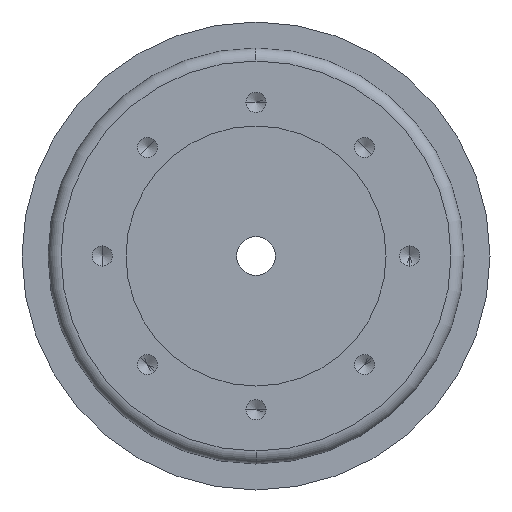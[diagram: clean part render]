
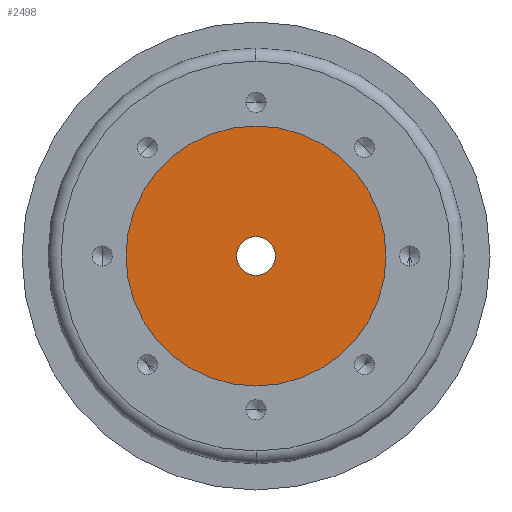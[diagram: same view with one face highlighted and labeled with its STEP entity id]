
A CAD part, left-side view. The second image highlights one B-rep face of the part: STEP entity #2498.
In plain terms, the highlighted planar face has unit normal (-1, 0, 0).
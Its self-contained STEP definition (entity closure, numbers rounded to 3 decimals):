
#15 = EDGE_CURVE ( 'NONE', #2365, #2372, #2348, .T. ) ;
#651 = CARTESIAN_POINT ( 'NONE',  ( 20., 0., -8.25 ) ) ;
#780 = CARTESIAN_POINT ( 'NONE',  ( 20., 0., 8.25 ) ) ;
#781 = DIRECTION ( 'NONE',  ( 0., 0., 1. ) ) ;
#782 = DIRECTION ( 'NONE',  ( -1., 0., 0. ) ) ;
#783 = CARTESIAN_POINT ( 'NONE',  ( 20., 0., 0. ) ) ;
#784 = AXIS2_PLACEMENT_3D ( 'NONE', #783, #782, #781 ) ;
#785 = CIRCLE ( 'NONE', #784, 8.25 ) ;
#1037 = DIRECTION ( 'NONE',  ( 0., 0., 1. ) ) ;
#1038 = DIRECTION ( 'NONE',  ( -1., 0., 0. ) ) ;
#1039 = AXIS2_PLACEMENT_3D ( 'NONE', #1057, #1038, #1037 ) ;
#1040 = CIRCLE ( 'NONE', #1039, 55. ) ;
#1057 = CARTESIAN_POINT ( 'NONE',  ( 20., 0., 0. ) ) ;
#1059 = CARTESIAN_POINT ( 'NONE',  ( 20., 0., 55. ) ) ;
#1062 = CARTESIAN_POINT ( 'NONE',  ( 20., 0., -55. ) ) ;
#1158 = DIRECTION ( 'NONE',  ( 0., 0., -1. ) ) ;
#1159 = DIRECTION ( 'NONE',  ( 1., 0., 0. ) ) ;
#1160 = CARTESIAN_POINT ( 'NONE',  ( 20., 55., 0. ) ) ;
#1161 = AXIS2_PLACEMENT_3D ( 'NONE', #1160, #1159, #1158 ) ;
#1162 = PLANE ( 'NONE',  #1161 ) ;
#1163 = FACE_OUTER_BOUND ( 'NONE', #2502, .T. ) ;
#1164 = FACE_BOUND ( 'NONE', #2499, .T. ) ;
#1165 = DIRECTION ( 'NONE',  ( 0., 0., 1. ) ) ;
#1250 = DIRECTION ( 'NONE',  ( -1., 0., 0. ) ) ;
#1251 = CARTESIAN_POINT ( 'NONE',  ( 20., 0., 0. ) ) ;
#1252 = AXIS2_PLACEMENT_3D ( 'NONE', #1251, #1250, #1165 ) ;
#1257 = CIRCLE ( 'NONE', #1252, 8.25 ) ;
#2211 = EDGE_CURVE ( 'NONE', #2256, #2212, #785, .T. ) ;
#2212 = VERTEX_POINT ( 'NONE', #780 ) ;
#2256 = VERTEX_POINT ( 'NONE', #651 ) ;
#2344 = DIRECTION ( 'NONE',  ( 0., 0., 1. ) ) ;
#2345 = DIRECTION ( 'NONE',  ( -1., 0., 0. ) ) ;
#2346 = CARTESIAN_POINT ( 'NONE',  ( 20., 0., 0. ) ) ;
#2347 = AXIS2_PLACEMENT_3D ( 'NONE', #2346, #2345, #2344 ) ;
#2348 = CIRCLE ( 'NONE', #2347, 55. ) ;
#2365 = VERTEX_POINT ( 'NONE', #1059 ) ;
#2368 = EDGE_CURVE ( 'NONE', #2372, #2365, #1040, .T. ) ;
#2372 = VERTEX_POINT ( 'NONE', #1062 ) ;
#2497 = EDGE_CURVE ( 'NONE', #2212, #2256, #1257, .T. ) ;
#2498 = ADVANCED_FACE ( 'NONE', ( #1164, #1163 ), #1162, .F. ) ;
#2499 = EDGE_LOOP ( 'NONE', ( #2500, #2501 ) ) ;
#2500 = ORIENTED_EDGE ( 'NONE', *, *, #2497, .F. ) ;
#2501 = ORIENTED_EDGE ( 'NONE', *, *, #2211, .F. ) ;
#2502 = EDGE_LOOP ( 'NONE', ( #2503, #2504 ) ) ;
#2503 = ORIENTED_EDGE ( 'NONE', *, *, #15, .T. ) ;
#2504 = ORIENTED_EDGE ( 'NONE', *, *, #2368, .T. ) ;
